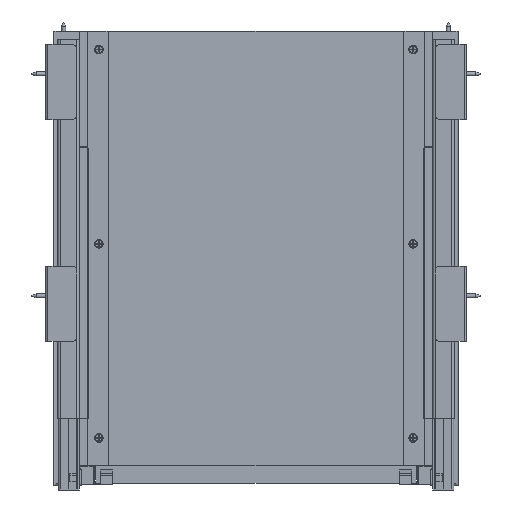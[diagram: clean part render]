
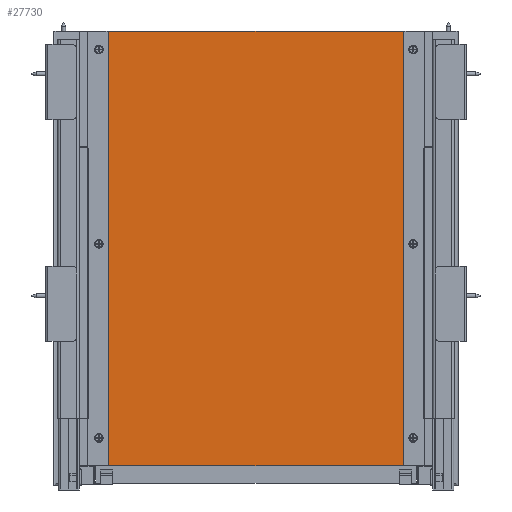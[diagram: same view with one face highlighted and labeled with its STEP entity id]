
A CAD part, front view. The second image highlights one B-rep face of the part: STEP entity #27730.
In plain terms, the highlighted planar face has unit normal (0, -1, 0).
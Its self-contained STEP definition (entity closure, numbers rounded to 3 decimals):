
#2700=FACE_OUTER_BOUND('',#4396,.T.);
#4396=EDGE_LOOP('',(#23817,#23818,#23819,#23820));
#7182=LINE('',#45120,#10302);
#7183=LINE('',#45123,#10303);
#7184=LINE('',#45125,#10304);
#7185=LINE('',#45126,#10305);
#10302=VECTOR('',#36048,10.);
#10303=VECTOR('',#36051,10.);
#10304=VECTOR('',#36052,10.);
#10305=VECTOR('',#36053,10.);
#13105=VERTEX_POINT('',#45113);
#13108=VERTEX_POINT('',#45118);
#13109=VERTEX_POINT('',#45122);
#13110=VERTEX_POINT('',#45124);
#16764=EDGE_CURVE('',#13105,#13108,#7182,.T.);
#16765=EDGE_CURVE('',#13109,#13105,#7183,.T.);
#16766=EDGE_CURVE('',#13110,#13108,#7184,.T.);
#16767=EDGE_CURVE('',#13109,#13110,#7185,.T.);
#23817=ORIENTED_EDGE('',*,*,#16765,.T.);
#23818=ORIENTED_EDGE('',*,*,#16764,.T.);
#23819=ORIENTED_EDGE('',*,*,#16766,.F.);
#23820=ORIENTED_EDGE('',*,*,#16767,.F.);
#26294=PLANE('',#29838);
#27730=ADVANCED_FACE('',(#2700),#26294,.T.);
#29838=AXIS2_PLACEMENT_3D('',#45121,#36049,#36050);
#36048=DIRECTION('',(0.,0.,-1.));
#36049=DIRECTION('center_axis',(0.,-1.,0.));
#36050=DIRECTION('ref_axis',(-1.,0.,0.));
#36051=DIRECTION('',(-1.,0.,0.));
#36052=DIRECTION('',(-1.,0.,0.));
#36053=DIRECTION('',(0.,0.,-1.));
#45113=CARTESIAN_POINT('',(-144.5,22.,11.5));
#45118=CARTESIAN_POINT('',(-144.5,22.,-364.5));
#45120=CARTESIAN_POINT('',(-144.5,22.,11.5));
#45121=CARTESIAN_POINT('Origin',(144.5,22.,11.5));
#45122=CARTESIAN_POINT('',(144.5,22.,11.5));
#45123=CARTESIAN_POINT('',(144.5,22.,11.5));
#45124=CARTESIAN_POINT('',(144.5,22.,-364.5));
#45125=CARTESIAN_POINT('',(144.5,22.,-364.5));
#45126=CARTESIAN_POINT('',(144.5,22.,11.5));
